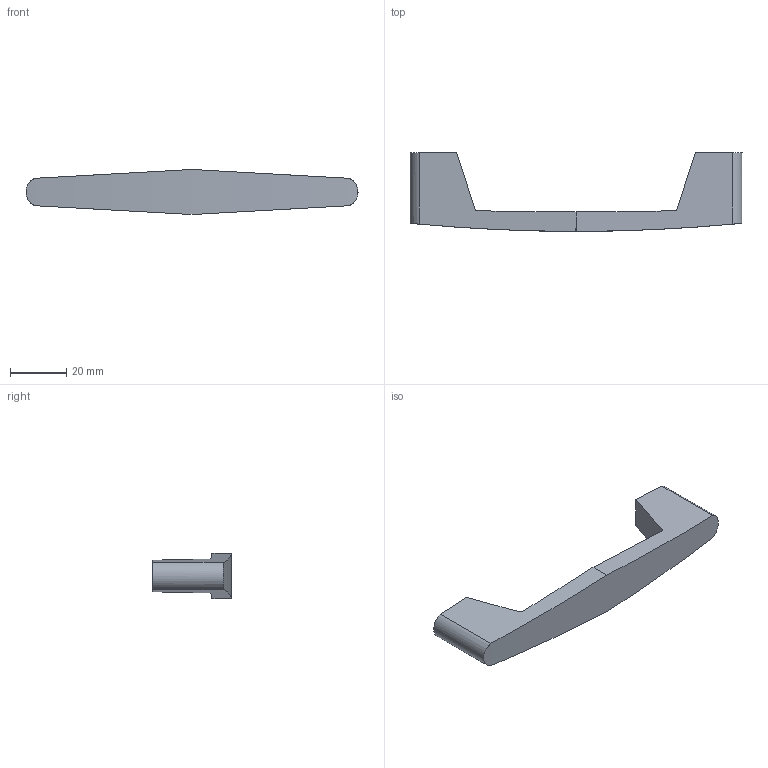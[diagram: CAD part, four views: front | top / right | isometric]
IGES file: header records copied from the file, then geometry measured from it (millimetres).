
Start section: Data from Parasolid IGES Translator 15.0.47, Copyright(c) 2006 Siemens P LM Software. All Rights Reserved.
Global section: file name: 9070639.igs; native system:  By UGS Corp.; preprocessor: XPlus GENERIC/IGES 3.0; author: Noname; organization: Noname; date: 20140122.150222; units: millimetre
Bounding box: 117.98 x 28 x 16 mm (x, y, z)
Surface area: 6909.8 mm2 (no closed solid volume)
Topology: 0 solids, 0 shells, 18 faces, 84 edges, 82 vertices
Faces by surface type: extrusion 10, revolution 8
